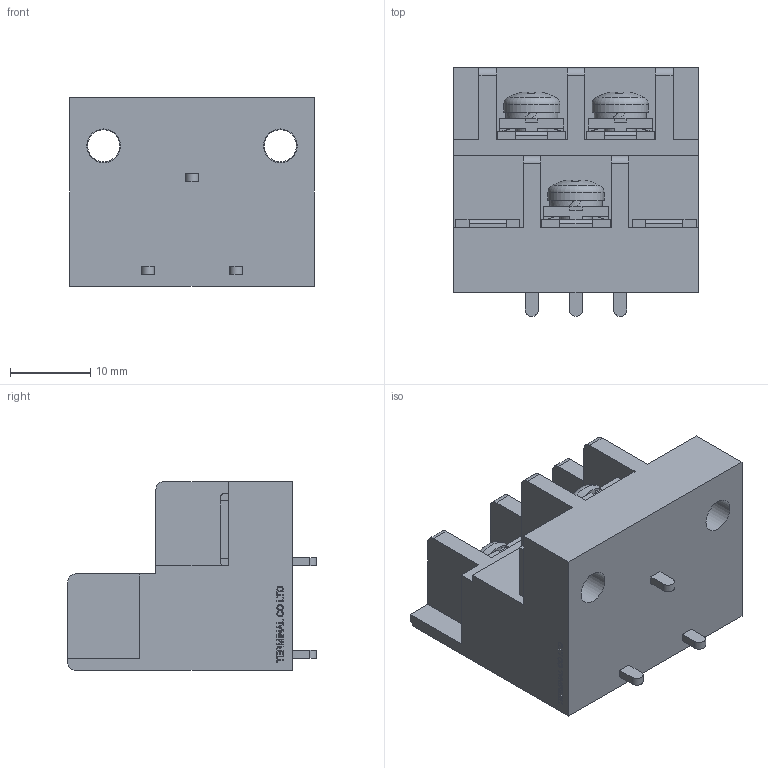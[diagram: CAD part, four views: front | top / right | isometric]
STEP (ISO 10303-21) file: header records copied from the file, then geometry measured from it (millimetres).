
FILE_DESCRIPTION(/* description */ ('Alibre Inc.'),/* implementation_level */ '2;1');
FILE_NAME(/* name */ 'export0',/* time_stamp */ '2016-08-05T13:54:03+09:00',/* author */ (''),/* organization */ (''),/* preprocessor_version */ 'ST-DEVELOPER v14',/* originating_system */ 'Alibre',/* authorisation */ '');
FILE_SCHEMA (('CONFIG_CONTROL_DESIGN'));
Length unit declared in the file: centimetre
Products named in the file (1): ID_1
Bounding box: 30.5 x 31 x 23.5 mm (x, y, z)
Volume: 12099.5 mm3; surface area: 5956.2 mm2
Topology: 1 solids, 46 shells, 1049 faces, 2747 edges, 1819 vertices
Faces by surface type: plane 791, bspline 202, cylinder 35, cone 12, torus 6, sphere 3
Full cylindrical faces by diameter (mm): 4 x5, 4.2 x2, 7 x3
Entity records: 30871 total; most frequent: CARTESIAN_POINT 7398, ORIENTED_EDGE 5476, DIRECTION 3260, EDGE_CURVE 2726, VECTOR 2091, LINE 2091, VERTEX_POINT 1814, EDGE_LOOP 1134
